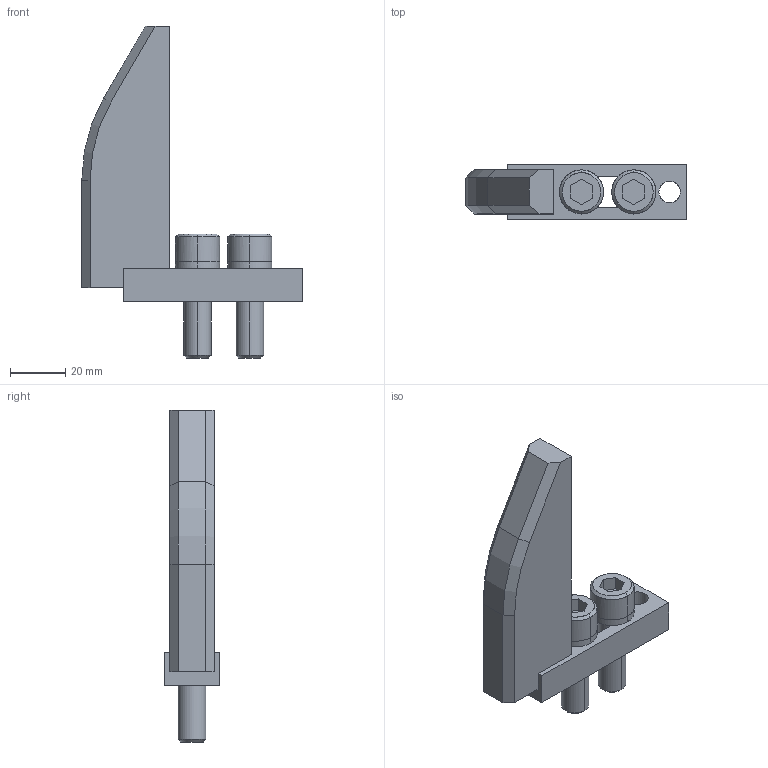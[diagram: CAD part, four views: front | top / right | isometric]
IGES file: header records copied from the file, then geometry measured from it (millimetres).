
Global section: file name: E:\UnigraphicsGraphicData\MISUMI_PRESS-PARTS\IGES\3d_enstd100-40-m10_01444_r00.igs; native system: NX V5.0; preprocessor: UGS NX IGES V5.0; author: MISUMI; date: 20110105.160628; units: millimetre
Bounding box: 80 x 20 x 120.5 mm (x, y, z)
Surface area: 17694.2 mm2 (no closed solid volume)
Topology: 0 solids, 0 shells, 74 faces, 457 edges, 457 vertices
Faces by surface type: bspline 74
